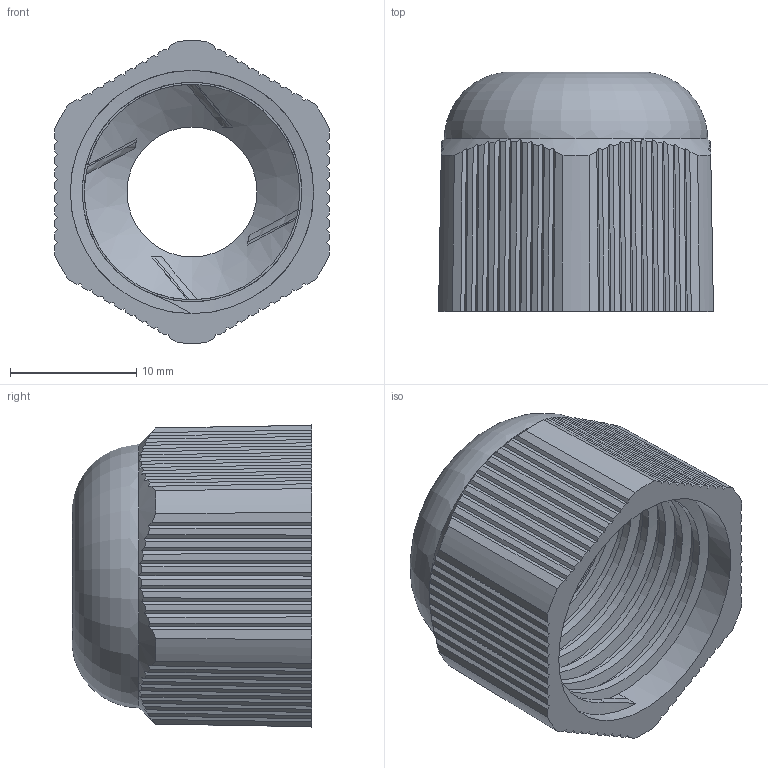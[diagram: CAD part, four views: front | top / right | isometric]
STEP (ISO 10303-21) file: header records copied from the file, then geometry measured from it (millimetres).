
FILE_DESCRIPTION (( 'STEP AP203' ), '1' );
FILE_NAME ('Ãàéêà öàíãîâàÿ (PG11).STEP', '2020-08-06T09:27:39', ( '' ), ( '' ), 'SwSTEP 2.0', 'SolidWorks 2019', '' );
FILE_SCHEMA (( 'CONFIG_CONTROL_DESIGN' ));
Length unit declared in the file: millimetre
Products named in the file (1): Ãàéêà öàíãîâàÿ (PG11)
Bounding box: 21.8 x 18.97 x 23.99 mm (x, y, z)
Volume: 2435.7 mm3; surface area: 3322.6 mm2
Topology: 1 solids, 1 shells, 211 faces, 621 edges, 412 vertices
Faces by surface type: plane 179, cone 12, cylinder 11, bspline 7, torus 2
Full cylindrical faces by diameter (mm): 10.3 x1, 17.1 x1, 19.3 x6
Entity records: 8438 total; most frequent: CARTESIAN_POINT 3396, ORIENTED_EDGE 1186, DIRECTION 797, EDGE_CURVE 593, VERTEX_POINT 397, VECTOR 343, LINE 343, AXIS2_PLACEMENT_3D 227
